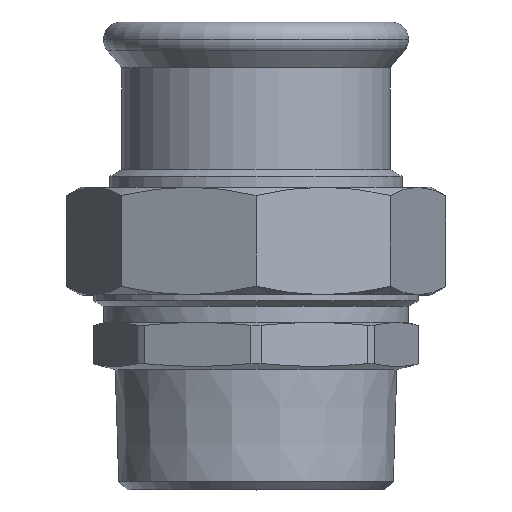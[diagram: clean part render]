
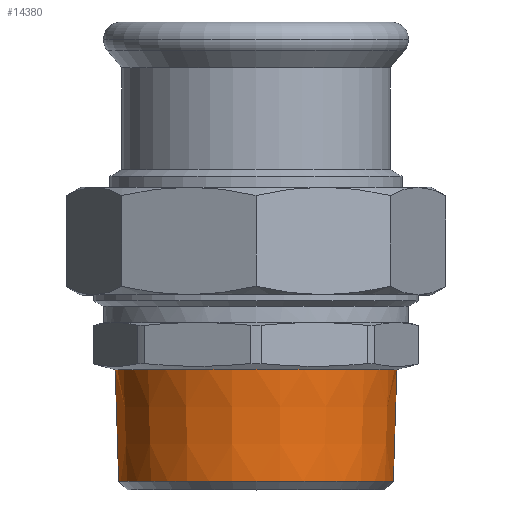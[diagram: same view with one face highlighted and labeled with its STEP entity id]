
A CAD part, top view. The second image highlights one B-rep face of the part: STEP entity #14380.
In plain terms, the highlighted conical face has half-angle 1.79 degrees and reference radius 30.113 mm.
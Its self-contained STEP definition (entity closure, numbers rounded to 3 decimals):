
#8290=CARTESIAN_POINT('',(134.617,-16.32,
0.));
#8300=VERTEX_POINT('',#8290);
#8330=CARTESIAN_POINT('',(163.983,-16.32,0.));
#8340=DIRECTION('',(0.,1.,0.));
#8350=DIRECTION('',(1.,0.,0.));
#8360=AXIS2_PLACEMENT_3D('',#8330,#8340,#8350);
#8370=CIRCLE('',#8360,29.366);
#8380=CARTESIAN_POINT('',(193.349,-16.32,0.));
#8390=VERTEX_POINT('',#8380);
#8400=EDGE_CURVE('',#8300,#8390,#8370,.T.);
#14070=CARTESIAN_POINT('',(163.983,7.58,0.));
#14080=DIRECTION('',(0.,1.,0.));
#14090=DIRECTION('',(1.,0.,0.));
#14100=AXIS2_PLACEMENT_3D('',#14070,#14080,#14090);
#14110=CONICAL_SURFACE('',#14100,30.113,0.031);
#14120=CARTESIAN_POINT('',(133.87,7.58,
0.));
#14130=DIRECTION('',(-0.031,1.,
0.));
#14140=VECTOR('',#14130,964.047);
#14150=LINE('',#14120,#14140);
#14160=CARTESIAN_POINT('',(133.87,7.58,
0.));
#14170=VERTEX_POINT('',#14160);
#14180=EDGE_CURVE('',#8300,#14170,#14150,.T.);
#14190=ORIENTED_EDGE('',*,*,#14180,.F.);
#14200=CARTESIAN_POINT('',(163.983,7.58,0.));
#14210=DIRECTION('',(0.,1.,0.));
#14220=DIRECTION('',(1.,0.,0.));
#14230=AXIS2_PLACEMENT_3D('',#14200,#14210,#14220);
#14240=CIRCLE('',#14230,30.113);
#14250=CARTESIAN_POINT('',(194.096,7.58,0.));
#14260=VERTEX_POINT('',#14250);
#14270=EDGE_CURVE('',#14170,#14260,#14240,.T.);
#14280=ORIENTED_EDGE('',*,*,#14270,.F.);
#14290=CARTESIAN_POINT('',(194.096,7.58,0.));
#14300=DIRECTION('',(0.031,1.,0.));
#14310=VECTOR('',#14300,964.047);
#14320=LINE('',#14290,#14310);
#14330=EDGE_CURVE('',#8390,#14260,#14320,.T.);
#14340=ORIENTED_EDGE('',*,*,#14330,.T.);
#14350=ORIENTED_EDGE('',*,*,#8400,.T.);
#14360=EDGE_LOOP('',(#14350,#14340,#14280,#14190));
#14370=FACE_OUTER_BOUND('',#14360,.T.);
#14380=ADVANCED_FACE('',(#14370),#14110,.T.);
